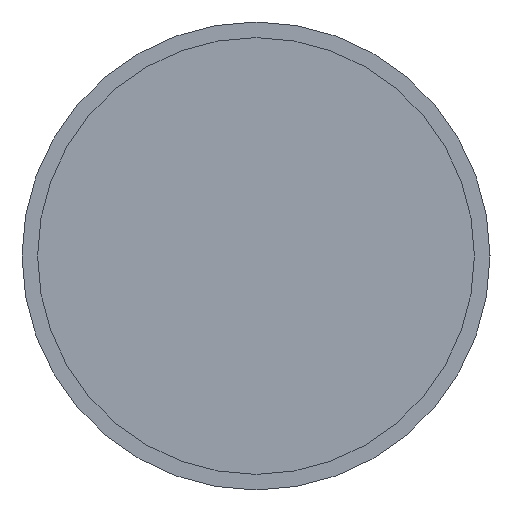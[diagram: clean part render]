
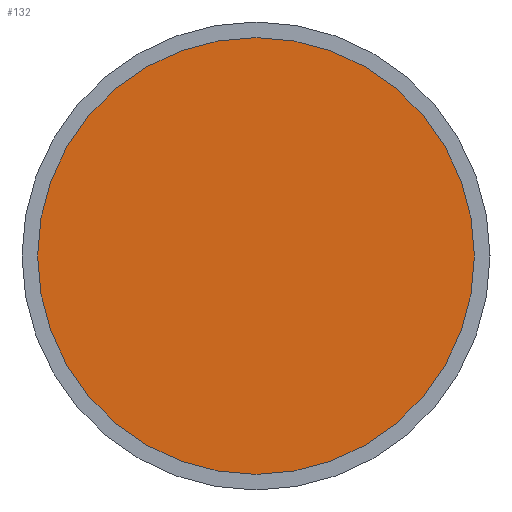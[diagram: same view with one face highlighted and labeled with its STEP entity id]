
A CAD part, left-side view. The second image highlights one B-rep face of the part: STEP entity #132.
In plain terms, the highlighted planar face has unit normal (-1, 0, 0).
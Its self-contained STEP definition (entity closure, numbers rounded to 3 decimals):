
#23=ORIENTED_EDGE('',*,*,#35,.F.);
#35=EDGE_CURVE('',#41,#41,#47,.T.);
#41=VERTEX_POINT('',#188);
#47=CIRCLE('',#145,2.8);
#53=EDGE_LOOP('',(#23));
#65=FACE_BOUND('',#53,.T.);
#77=PLANE('',#144);
#132=ADVANCED_FACE('',(#65),#77,.F.);
#144=AXIS2_PLACEMENT_3D('',#186,#159,#160);
#145=AXIS2_PLACEMENT_3D('',#187,#161,#162);
#159=DIRECTION('',(1.,0.,0.));
#160=DIRECTION('',(0.,0.,-1.));
#161=DIRECTION('',(1.,0.,0.));
#162=DIRECTION('',(0.,0.,-1.));
#186=CARTESIAN_POINT('',(-13.,0.,0.));
#187=CARTESIAN_POINT('',(-13.,0.,0.));
#188=CARTESIAN_POINT('',(-13.,0.,-2.8));
